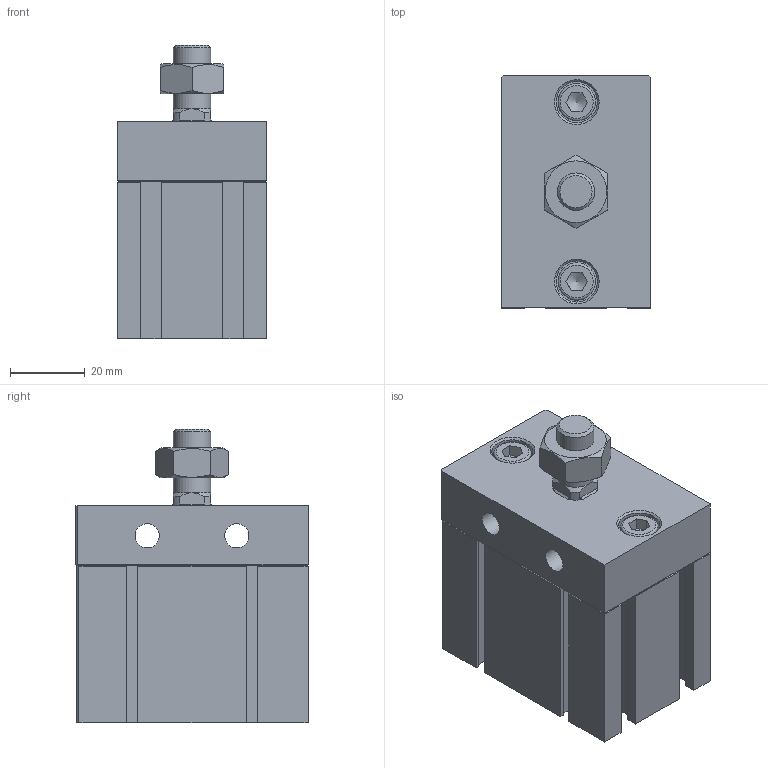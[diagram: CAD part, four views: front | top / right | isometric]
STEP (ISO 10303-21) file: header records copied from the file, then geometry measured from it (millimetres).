
FILE_DESCRIPTION((''),'2;1');
FILE_NAME('I:\3D電子目錄\氣缸\ND\ND\ND32-B\ND32x10-B.stp','2007-07-30T20:20:55',('Administrator'),(''),'Autodesk Inventor 11','Autodesk Inventor 11','');
FILE_SCHEMA(('AUTOMOTIVE_DESIGN { 1 0 10303 214 1 1 1 1 }'));
Length unit declared in the file: millimetre
Products named in the file (4): ND32-B; R 形環 34; ISO 4762 M6 x 16
Assembly tree (4 placements, depth 2):
  ND32-B
    ND32-B
    R 形環 34
    ISO 4762 M6 x 16  x2
Bounding box: 40 x 62.1 x 78.5 mm (x, y, z)
Volume: 129278.1 mm3; surface area: 29440.8 mm2
Topology: 5 solids, 5 shells, 205 faces, 489 edges, 311 vertices
Faces by surface type: plane 141, cylinder 27, cone 20, bspline 14, torus 3
Full cylindrical faces by diameter (mm): 1.9 x2, 2.2 x2, 6 x2, 6.5 x2, 10 x4, 11 x2, 23 x1, 34 x1, 36 x1
Entity records: 5447 total; most frequent: CARTESIAN_POINT 1131, DIRECTION 848, ORIENTED_EDGE 824, EDGE_CURVE 412, VECTOR 294, LINE 294, VERTEX_POINT 286, AXIS2_PLACEMENT_3D 277
